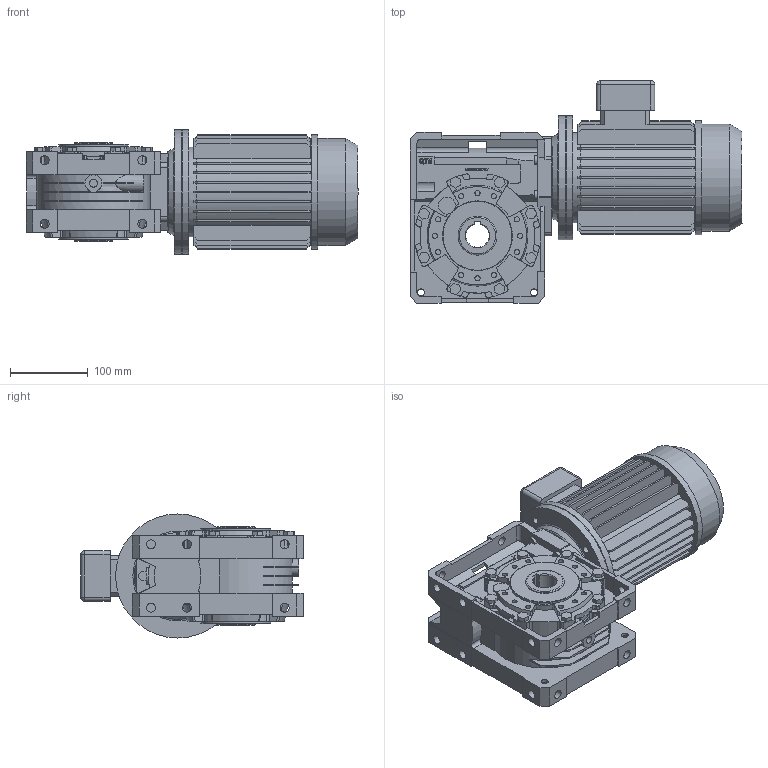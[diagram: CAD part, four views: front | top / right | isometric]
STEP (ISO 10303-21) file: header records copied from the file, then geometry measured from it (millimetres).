
FILE_DESCRIPTION( ( 'Unknown' ), '1' );
FILE_NAME( 'E:/services/configuratordownloads/customers/HYDROMEC/VSFQ/download/E6517C1E65C4419FC127B5DCD4EF320/STEP/E6517C1E65C4419FC127B5DCD4EF320.3d.stp', 'Unknown', ( 'Unknown' ), ( 'Unknown' ), 'PSStep 10.1', 'Unknown', ' ' );
FILE_SCHEMA( ( 'AUTOMOTIVE_DESIGN { 1 0 10303 214 1 1 1 1 }' ) );
Length unit declared in the file: millimetre
Products named in the file (1): Q758800
Bounding box: 428 x 287 x 160 mm (x, y, z)
Volume: 6231538.5 mm3; surface area: 599483.8 mm2
Topology: 1 solids, 18 shells, 1255 faces, 3378 edges, 2248 vertices
Faces by surface type: plane 880, cylinder 305, extrusion 40, cone 18, torus 8, sphere 4
Full cylindrical faces by diameter (mm): 4.917 x6, 6.647 x32, 8.75 x8, 9 x8, 9.5 x8, 10.2 x3, 11.5 x16, 22 x1, 40 x1, 45 x1, 50 x2, 68 x1, 75 x1, 90 x1, 110 x1, 115.261 x1, 138 x1, 147 x1, 160 x2
Entity records: 49966 total; most frequent: CARTESIAN_POINT 8512, ORIENTED_EDGE 6434, DIRECTION 6395, EDGE_CURVE 3217, VECTOR 2249, LINE 2209, VERTEX_POINT 2201, AXIS2_PLACEMENT_3D 2073
